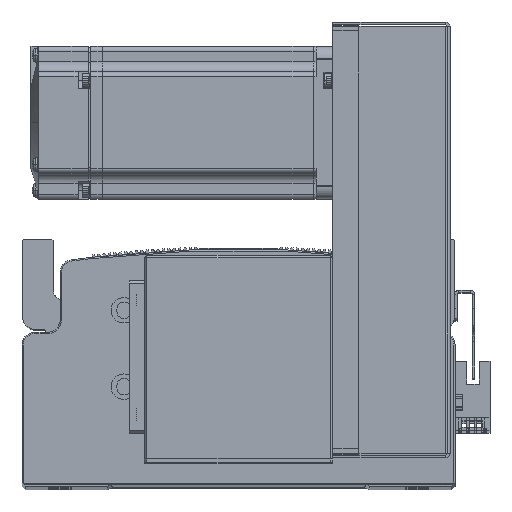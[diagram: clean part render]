
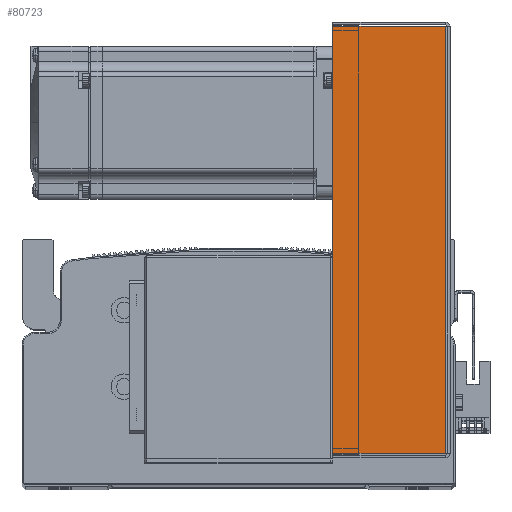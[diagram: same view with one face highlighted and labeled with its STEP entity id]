
A CAD part, top view. The second image highlights one B-rep face of the part: STEP entity #80723.
In plain terms, the highlighted planar face has unit normal (0, 0, 1).
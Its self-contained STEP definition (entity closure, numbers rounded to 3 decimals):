
#2978 = CARTESIAN_POINT ( 'NONE',  ( 0., 0., 40.5 ) ) ;
#3044 = PLANE ( 'NONE',  #59219 ) ;
#3097 = DIRECTION ( 'NONE',  ( -1., 0., 0. ) ) ;
#3133 = DIRECTION ( 'NONE',  ( 0., 0., -1. ) ) ;
#13505 = DIRECTION ( 'NONE',  ( -1., 0., 0. ) ) ;
#13538 = CARTESIAN_POINT ( 'NONE',  ( 0., 0.737, 40.5 ) ) ;
#13561 = CARTESIAN_POINT ( 'NONE',  ( -83.793, 0., 40.5 ) ) ;
#13630 = CARTESIAN_POINT ( 'NONE',  ( 83.793, 0., 40.5 ) ) ;
#13643 = DIRECTION ( 'NONE',  ( 0., 1., 0. ) ) ;
#13648 = DIRECTION ( 'NONE',  ( 0., 1., 0. ) ) ;
#16542 = FACE_OUTER_BOUND ( 'NONE', #20769, .T. ) ;
#20769 = EDGE_LOOP ( 'NONE', ( #79117, #78930, #79148, #79024 ) ) ;
#25313 = DIRECTION ( 'NONE',  ( -1., 0., 0. ) ) ;
#25324 = CARTESIAN_POINT ( 'NONE',  ( -84.5, 45., 40.5 ) ) ;
#27431 = CARTESIAN_POINT ( 'NONE',  ( -83.793, 0.737, 40.5 ) ) ;
#27433 = CARTESIAN_POINT ( 'NONE',  ( -83.793, 45., 40.5 ) ) ;
#27462 = CARTESIAN_POINT ( 'NONE',  ( 83.793, 45., 40.5 ) ) ;
#27479 = CARTESIAN_POINT ( 'NONE',  ( 83.793, 0.737, 40.5 ) ) ;
#32026 = VECTOR ( 'NONE', #25313, 1000. ) ;
#32030 = LINE ( 'NONE', #25324, #32026 ) ;
#32063 = LINE ( 'NONE', #13538, #32094 ) ;
#32094 = VECTOR ( 'NONE', #13505, 1000. ) ;
#32148 = LINE ( 'NONE', #13630, #32163 ) ;
#32163 = VECTOR ( 'NONE', #13643, 1000. ) ;
#32174 = LINE ( 'NONE', #13561, #32248 ) ;
#32248 = VECTOR ( 'NONE', #13648, 1000. ) ;
#49425 = VERTEX_POINT ( 'NONE', #27433 ) ;
#49435 = VERTEX_POINT ( 'NONE', #27431 ) ;
#49436 = VERTEX_POINT ( 'NONE', #27479 ) ;
#49438 = VERTEX_POINT ( 'NONE', #27462 ) ;
#59219 = AXIS2_PLACEMENT_3D ( 'NONE', #2978, #3133, #3097 ) ;
#76982 = EDGE_CURVE ( 'NONE', #49438, #49425, #32030, .T. ) ;
#77004 = EDGE_CURVE ( 'NONE', #49436, #49435, #32063, .T. ) ;
#77020 = EDGE_CURVE ( 'NONE', #49436, #49438, #32148, .T. ) ;
#77023 = EDGE_CURVE ( 'NONE', #49435, #49425, #32174, .T. ) ;
#78930 = ORIENTED_EDGE ( 'NONE', *, *, #77020, .T. ) ;
#79024 = ORIENTED_EDGE ( 'NONE', *, *, #77023, .F. ) ;
#79117 = ORIENTED_EDGE ( 'NONE', *, *, #77004, .F. ) ;
#79148 = ORIENTED_EDGE ( 'NONE', *, *, #76982, .T. ) ;
#80723 = ADVANCED_FACE ( 'NONE', ( #16542 ), #3044, .F. ) ;
